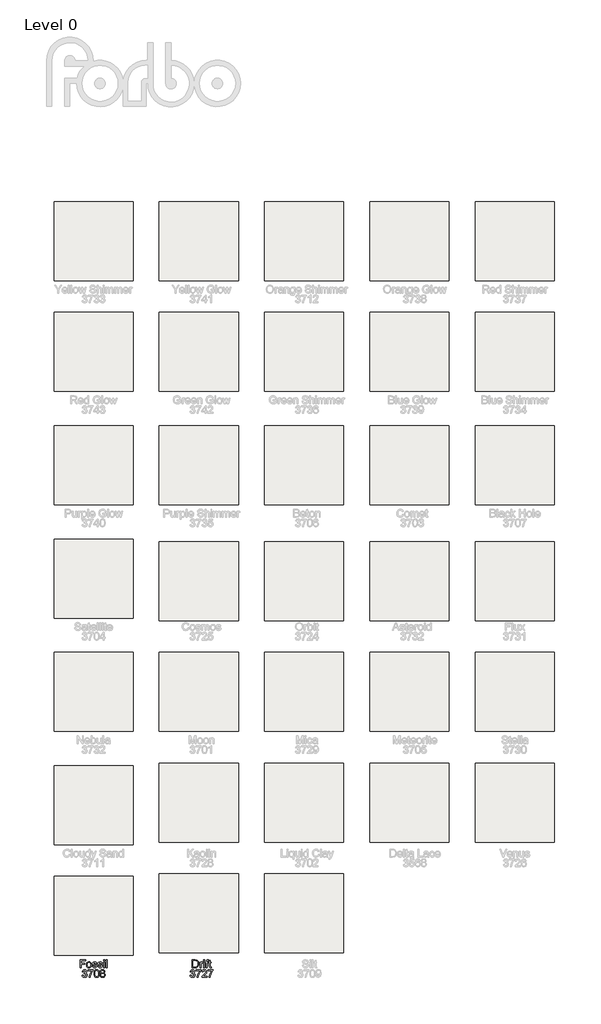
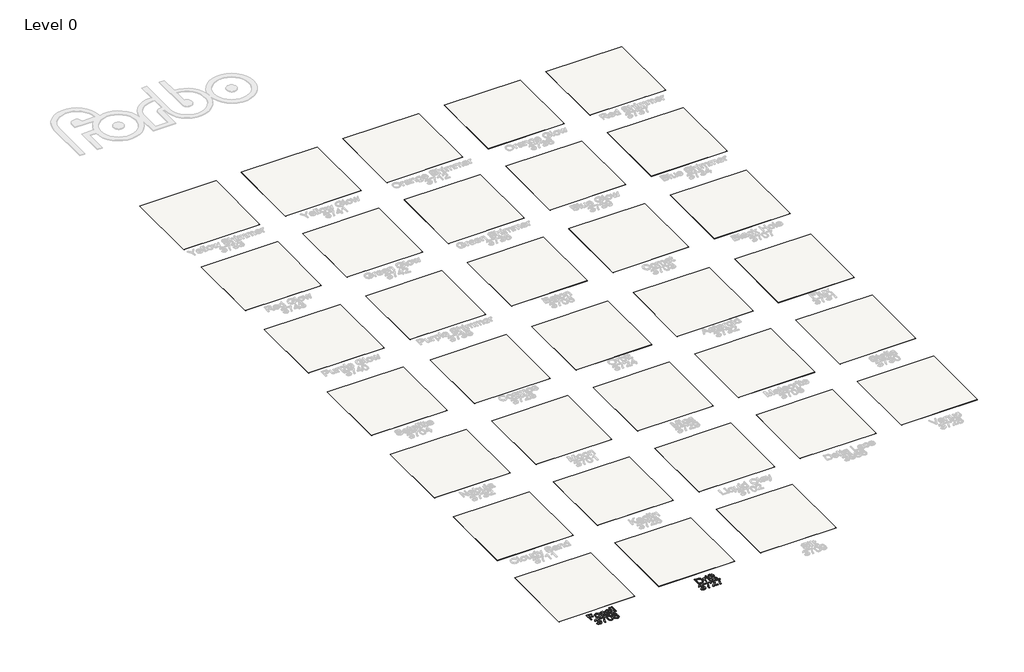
# One storey, part 1 of 14: 33 coverings, 2 proxies.
"""IFC4 building model written with IfcOpenShell, lengths in millimetres."""

from ifc_helpers import new_model, si_unit, frame, origin, origin_with_axes, place, context, project, spatial, polyline, outline, extrude, element, save

model = new_model("IFC4")

# Units and contexts
model_context = context("Model", 3, world=origin())
ifc_project = project(units=[si_unit("LENGTHUNIT", "METRE", prefix="MILLI")], contexts=[model_context])

# Site, building, storey
site = spatial("IfcSite", under=ifc_project)
building = spatial("IfcBuilding", under=site)
storey = spatial("IfcBuildingStorey", under=building, Name="Level 0", Elevation=0.0)

# Proxies
placement = place(None, origin())
element("IfcBuildingElementProxy", 1, Name="300mm Arial", ObjectType="300mm Arial", at=placement, inside=storey, context=model_context, shape_type="SweptSolid", body=[
    extrude(outline(polyline([(-8457.729111, -23537.1730179), (-8457.729111, -23241.7884025), (-8259.2675725, -23241.7884025), (-8259.2675725, -23278.7114794), (-8420.806034, -23278.7114794), (-8420.806034, -23366.4037871), (-8282.3444956, -23366.4037871), (-8282.3444956, -23403.326864), (-8420.806034, -23403.326864), (-8420.806034, -23537.1730179), (-8457.729111, -23537.1730179)])), origin_with_axes(), (0.0, 0.0, 1.0), 20.0),
    extrude(outline(polyline([(-8222.3444956, -23428.7114794), (-8220.3478009, -23400.6180299), (-8214.3577167, -23376.4097967), (-8204.3742432, -23356.0867799), (-8190.3973802, -23339.6489794), (-8176.3258658, -23329.1426693), (-8160.7940148, -23321.6381621), (-8143.8018273, -23317.1354578), (-8125.3493033, -23315.6345563), (-8104.9789607, -23317.4622306), (-8086.5602408, -23322.9452534), (-8070.0931434, -23332.0836248), (-8055.5776687, -23344.8773448), (-8043.7304631, -23360.893721), (-8035.2681735, -23379.7000611), (-8030.1907997, -23401.2963652), (-8028.4983417, -23425.6826332), (-8031.4911302, -23462.9843159), (-8040.4694956, -23491.3797486), (-8055.1720196, -23512.6447727), (-8075.337284, -23528.5552294), (-8099.2886062, -23538.4801092), (-8125.3493033, -23541.7884025), (-8146.0171218, -23539.967489), (-8164.6071158, -23534.5047486), (-8181.1192852, -23525.4001813), (-8195.5536302, -23512.6537871), (-8207.2746338, -23496.4819121), (-8215.6467792, -23477.1009025), (-8220.6700665, -23454.5107582), (-8222.3444956, -23428.7114794)]), holes=[polyline([(-8185.4214187, -23428.639364), (-8181.1485821, -23462.0558304), (-8168.3300725, -23485.8629217), (-8149.0392071, -23500.1147246), (-8125.3493033, -23504.8653255), (-8101.7675725, -23500.0876813), (-8082.5127648, -23485.7547486), (-8069.6942552, -23461.6321525), (-8065.4214187, -23427.4855179), (-8069.7212985, -23395.0426092), (-8082.6209379, -23371.5600371), (-8101.9027889, -23357.3082342), (-8125.3493033, -23352.5576332), (-8149.0392071, -23357.2902054), (-8168.3300725, -23371.4879217), (-8181.1485821, -23395.2409265), (-8185.4214187, -23428.639364)])]), origin_with_axes(), (0.0, 0.0, 1.0), 20.0),
    extrude(outline(polyline([(-8000.806034, -23472.5576332), (-7963.8829571, -23467.9422486), (-7958.0596398, -23483.7355179), (-7946.791611, -23495.3460948), (-7930.0067552, -23502.4855179), (-7907.6329571, -23504.8653255), (-7885.5295917, -23502.6838352), (-7869.9887264, -23496.139364), (-7860.7940148, -23486.6561909), (-7857.729111, -23475.6585948), (-7860.8120437, -23466.2475371), (-7870.0608417, -23459.0720563), (-7908.0656494, -23448.5432102), (-7963.666611, -23430.4783063), (-7977.7381254, -23421.4007823), (-7987.9334379, -23409.3845563), (-7994.1263465, -23395.1958544), (-7996.1906494, -23379.6009025), (-7994.5319956, -23365.295013), (-7989.556034, -23352.0888832), (-7981.713486, -23340.5053496), (-7971.4550725, -23331.0672486), (-7947.9815148, -23320.1417679), (-7916.2146879, -23315.6345563), (-7892.182236, -23317.4464554), (-7871.2868033, -23322.8821525), (-7854.4839187, -23331.4097967), (-7842.729111, -23342.4975371), (-7834.9406494, -23356.9656861), (-7830.0368033, -23375.6345563), (-7866.9598802, -23380.2499409), (-7871.6203369, -23368.6303496), (-7880.8420917, -23359.8773448), (-7894.7152889, -23354.3875611), (-7913.3300725, -23352.5576332), (-7934.5319956, -23354.3064313), (-7948.666611, -23359.5528255), (-7956.6173321, -23367.1249409), (-7959.2675725, -23375.8509025), (-7954.868534, -23386.5960948), (-7941.0944956, -23394.7451332), (-7909.291611, -23402.6057102), (-7855.0968994, -23419.9855179), (-7840.7819956, -23428.2968159), (-7829.9286302, -23439.6730179), (-7823.0866831, -23454.1501813), (-7820.806034, -23471.764364), (-7823.4833177, -23489.9734986), (-7831.5151687, -23507.1009025), (-7844.5950965, -23521.8034265), (-7862.416611, -23532.7379217), (-7883.9430533, -23539.5257823), (-7908.1377648, -23541.7884025), (-7945.3673321, -23537.4254217), (-7972.5368033, -23524.3364794), (-7990.6738225, -23502.6658063), (-8000.806034, -23472.5576332)])), origin_with_axes(), (0.0, 0.0, 1.0), 20.0),
    extrude(outline(polyline([(-7793.1137264, -23472.5576332), (-7756.1906494, -23467.9422486), (-7750.3673321, -23483.7355179), (-7739.0993033, -23495.3460948), (-7722.3144475, -23502.4855179), (-7699.9406494, -23504.8653255), (-7677.837284, -23502.6838352), (-7662.2964187, -23496.139364), (-7653.1017071, -23486.6561909), (-7650.0368033, -23475.6585948), (-7653.119736, -23466.2475371), (-7662.368534, -23459.0720563), (-7700.3733417, -23448.5432102), (-7755.9743033, -23430.4783063), (-7770.0458177, -23421.4007823), (-7780.2411302, -23409.3845563), (-7786.4340389, -23395.1958544), (-7788.4983417, -23379.6009025), (-7786.8396879, -23365.295013), (-7781.8637264, -23352.0888832), (-7774.0211783, -23340.5053496), (-7763.7627648, -23331.0672486), (-7740.2892071, -23320.1417679), (-7708.5223802, -23315.6345563), (-7684.4899283, -23317.4464554), (-7663.5944956, -23322.8821525), (-7646.791611, -23331.4097967), (-7635.0368033, -23342.4975371), (-7627.2483417, -23356.9656861), (-7622.3444956, -23375.6345563), (-7659.2675725, -23380.2499409), (-7663.9280292, -23368.6303496), (-7673.149784, -23359.8773448), (-7687.0229812, -23354.3875611), (-7705.6377648, -23352.5576332), (-7726.8396879, -23354.3064313), (-7740.9743033, -23359.5528255), (-7748.9250244, -23367.1249409), (-7751.5752648, -23375.8509025), (-7747.1762264, -23386.5960948), (-7733.4021879, -23394.7451332), (-7701.5993033, -23402.6057102), (-7647.4045917, -23419.9855179), (-7633.0896879, -23428.2968159), (-7622.2363225, -23439.6730179), (-7615.3943754, -23454.1501813), (-7613.1137264, -23471.764364), (-7615.79101, -23489.9734986), (-7623.822861, -23507.1009025), (-7636.9027889, -23521.8034265), (-7654.7243033, -23532.7379217), (-7676.2507456, -23539.5257823), (-7700.4454571, -23541.7884025), (-7737.6750244, -23537.4254217), (-7764.8444956, -23524.3364794), (-7782.9815148, -23502.6658063), (-7793.1137264, -23472.5576332)])), origin_with_axes(), (0.0, 0.0, 1.0), 20.0),
    extrude(outline(polyline([(-7571.5752648, -23278.7114794), (-7571.5752648, -23241.7884025), (-7534.6521879, -23241.7884025), (-7534.6521879, -23278.7114794), (-7571.5752648, -23278.7114794)])), origin_with_axes(), (0.0, 0.0, 1.0), 20.0),
    extrude(outline(polyline([(-7571.5752648, -23537.1730179), (-7571.5752648, -23320.2499409), (-7534.6521879, -23320.2499409), (-7534.6521879, -23537.1730179), (-7571.5752648, -23537.1730179)])), origin_with_axes(), (0.0, 0.0, 1.0), 20.0),
    extrude(outline(polyline([(-7479.2675725, -23537.1730179), (-7479.2675725, -23241.7884025), (-7442.3444956, -23241.7884025), (-7442.3444956, -23537.1730179), (-7479.2675725, -23537.1730179)])), origin_with_axes(), (0.0, 0.0, 1.0), 20.0),
    extrude(outline(polyline([(-8386.1906494, -23823.326864), (-8349.2675725, -23818.7114794), (-8341.0013465, -23841.9146044), (-8328.8949764, -23857.5816717), (-8312.35351, -23866.5059505), (-8290.7819956, -23869.4807102), (-8265.4694956, -23865.3881621), (-8245.9262264, -23853.1105179), (-8233.432236, -23834.7932102), (-8229.2675725, -23812.5816717), (-8233.3961783, -23791.4969361), (-8245.7819956, -23774.3965755), (-8264.5319956, -23763.0654457), (-8287.7531494, -23759.2884025), (-8313.6425725, -23763.326864), (-8309.5319956, -23726.4037871), (-8303.618534, -23726.8364794), (-8281.4971398, -23724.186239), (-8261.7194956, -23716.2355179), (-8247.7651687, -23702.7859986), (-8243.1137264, -23683.639364), (-8246.4851206, -23667.6928496), (-8256.5993033, -23654.7571525), (-8272.0319956, -23646.1844361), (-8291.3589187, -23643.326864), (-8310.7218994, -23646.2114794), (-8326.5512264, -23654.8653255), (-8338.1077167, -23669.2884025), (-8344.6521879, -23689.4807102), (-8381.5752648, -23684.8653255), (-8370.7038706, -23651.7102775), (-8351.3589187, -23626.9566717), (-8324.8925725, -23611.5420082), (-8292.6569956, -23606.4037871), (-8269.4448562, -23608.93684), (-8248.1257456, -23616.5359986), (-8230.150986, -23628.5251813), (-8216.9718994, -23644.2283063), (-8208.8859619, -23662.3202534), (-8206.1906494, -23681.4759025), (-8208.7507456, -23699.3244602), (-8216.431034, -23715.514364), (-8229.1233417, -23729.3064313), (-8246.7194956, -23739.9614794), (-8223.6065148, -23749.3004217), (-8206.479111, -23765.201864), (-8195.8781494, -23786.8004217), (-8192.3444956, -23813.2307102), (-8194.1113225, -23831.9626813), (-8199.4118033, -23849.2162871), (-8208.2459379, -23864.9915275), (-8220.6137264, -23879.2884025), (-8235.6813345, -23891.1513832), (-8252.6149283, -23899.6249409), (-8271.4145076, -23904.7090755), (-8292.0800725, -23906.4037871), (-8327.7771879, -23900.6165275), (-8343.1377648, -23893.3824529), (-8356.8396879, -23883.2547486), (-8368.3285701, -23870.8283664), (-8377.0500244, -23856.6982582), (-8386.1906494, -23823.326864)])), origin_with_axes(), (0.0, 0.0, 1.0), 20.0),
    extrude(outline(polyline([(-8160.0368033, -23647.9422486), (-8160.0368033, -23611.0191717), (-7966.1906494, -23611.0191717), (-7966.1906494, -23640.8749409), (-7993.8198562, -23675.841888), (-8021.1786302, -23720.3100371), (-8045.3102408, -23770.2228977), (-8063.2579571, -23821.5239794), (-8072.056034, -23859.9073929), (-8076.9598802, -23901.7884025), (-8113.8829571, -23901.7884025), (-8109.8895677, -23863.7295082), (-8099.2074764, -23818.4951332), (-8082.1251446, -23770.5474169), (-8058.931034, -23724.3484986), (-8031.8517071, -23682.5846765), (-8003.1137264, -23647.9422486), (-8160.0368033, -23647.9422486)])), origin_with_axes(), (0.0, 0.0, 1.0), 20.0),
    extrude(outline(polyline([(-7933.8829571, -23756.4759025), (-7931.1696158, -23709.1952534), (-7923.0295917, -23671.4879217), (-7909.5440148, -23642.7769842), (-7890.7940148, -23622.4855179), (-7866.6443754, -23610.4242198), (-7836.9598802, -23606.4037871), (-7814.2074764, -23608.7835948), (-7793.8348802, -23615.9230179), (-7776.7976206, -23627.5426092), (-7764.0512264, -23643.3629217), (-7754.4238225, -23663.248739), (-7746.743534, -23687.0648448), (-7741.713486, -23717.3082342), (-7740.0368033, -23756.4759025), (-7742.7231014, -23803.4861188), (-7750.7819956, -23841.1033063), (-7764.1864427, -23869.8412871), (-7782.9093994, -23890.2138832), (-7807.1131254, -23902.3563111), (-7836.9598802, -23906.4037871), (-7857.2964187, -23904.6459746), (-7875.3252648, -23899.3725371), (-7891.0464187, -23890.5834746), (-7904.4598802, -23878.2787871), (-7917.3324764, -23856.0356981), (-7926.5271879, -23828.3208544), (-7932.0440148, -23795.1342558), (-7933.8829571, -23756.4759025)]), holes=[polyline([(-7896.9598802, -23756.4037871), (-7892.6329571, -23814.483715), (-7887.2243033, -23834.3492498), (-7879.6521879, -23848.0984986), (-7860.3252648, -23864.1351573), (-7836.9598802, -23869.4807102), (-7813.5944956, -23864.1171284), (-7794.2675725, -23848.0263832), (-7786.6954571, -23834.2545984), (-7781.2868033, -23814.3935707), (-7776.9598802, -23756.4037871), (-7781.1425725, -23699.6309505), (-7786.3709379, -23679.8307703), (-7793.6906494, -23665.7547486), (-7812.9815148, -23648.9338352), (-7837.3925725, -23643.326864), (-7860.5055533, -23648.2667679), (-7879.0752648, -23663.0864794), (-7886.899784, -23678.4109986), (-7892.4887264, -23699.0720563), (-7896.9598802, -23756.4037871)])]), origin_with_axes(), (0.0, 0.0, 1.0), 20.0),
    extrude(outline(polyline([(-7653.931034, -23739.0960948), (-7673.6996639, -23729.3605179), (-7687.572861, -23716.1634025), (-7695.7669715, -23699.7751813), (-7698.4983417, -23680.4662871), (-7692.5488225, -23651.6021044), (-7674.7002648, -23627.7499409), (-7661.814147, -23618.4109986), (-7646.9538706, -23611.7403255), (-7611.3108417, -23606.4037871), (-7575.4514667, -23611.8665275), (-7560.4289307, -23618.6949529), (-7547.3444956, -23628.2547486), (-7529.1714187, -23652.4855179), (-7524.6281494, -23666.3857582), (-7523.1137264, -23681.4759025), (-7525.8090389, -23700.1628015), (-7533.8949764, -23716.2715755), (-7547.4616831, -23729.3875611), (-7566.5993033, -23739.0960948), (-7543.8739427, -23750.8058304), (-7527.3324764, -23768.0504217), (-7517.2453369, -23790.0005419), (-7513.8829571, -23815.826864), (-7515.5506254, -23834.2433304), (-7520.5536302, -23851.1273448), (-7528.8919715, -23866.4789073), (-7540.5656494, -23880.2980179), (-7554.9616831, -23891.7192919), (-7571.4670917, -23899.8773448), (-7590.0818754, -23904.7721765), (-7610.806034, -23906.4037871), (-7631.5301927, -23904.7654157), (-7650.1449764, -23899.8503015), (-7666.650385, -23891.6584445), (-7681.0464187, -23880.1898448), (-7692.7200965, -23866.2738292), (-7701.0584379, -23850.7397246), (-7706.0614427, -23833.5875311), (-7707.729111, -23814.8172486), (-7704.2315148, -23787.9903255), (-7693.7387264, -23765.9230179), (-7676.791611, -23749.3725371), (-7653.931034, -23739.0960948)]), holes=[polyline([(-7670.806034, -23813.5191717), (-7664.6401687, -23841.3196525), (-7656.10351, -23853.2457342), (-7642.8252648, -23862.1249409), (-7626.9238225, -23867.6417679), (-7610.5175725, -23869.4807102), (-7585.385361, -23865.6135227), (-7566.5271879, -23854.0119602), (-7554.7363225, -23836.4428496), (-7550.806034, -23814.6730179), (-7554.8625244, -23792.5335948), (-7567.0319956, -23774.576864), (-7586.322861, -23762.6778255), (-7611.743534, -23758.7114794), (-7636.5241831, -23762.623739), (-7655.1930533, -23774.3605179), (-7666.9027889, -23791.9747005), (-7670.806034, -23813.5191717)]), polyline([(-7661.5752648, -23681.5480179), (-7658.3030292, -23697.6658063), (-7648.4863225, -23710.5384025), (-7632.4136062, -23718.9759025), (-7610.3733417, -23721.7884025), (-7588.8468994, -23718.9939313), (-7573.0175725, -23710.6105179), (-7563.2819956, -23698.170614), (-7560.0368033, -23683.2066717), (-7563.3901687, -23667.6748207), (-7573.4502648, -23654.8292679), (-7589.4959379, -23646.202465), (-7610.806034, -23643.326864), (-7632.2513465, -23646.139364), (-7648.2699764, -23654.576864), (-7658.2489427, -23666.9446525), (-7661.5752648, -23681.5480179)])]), origin_with_axes(), (0.0, 0.0, 1.0), 20.0),
])
element("IfcBuildingElementProxy", 2, Name="300mm Arial", ObjectType="300mm Arial", at=placement, inside=storey, context=model_context, shape_type="SweptSolid", body=[
    extrude(outline(polyline([(-4200.806034, -23537.1730179), (-4200.806034, -23241.7884025), (-4098.9069956, -23241.7884025), (-4046.1906494, -23246.0432102), (-4022.6449764, -23254.2463352), (-4002.7771879, -23267.1730179), (-3982.3505052, -23289.6730179), (-3967.8012264, -23317.6537871), (-3959.0932937, -23350.5744602), (-3956.1906494, -23387.8941717), (-3958.1557937, -23419.5978977), (-3964.0512264, -23447.4975371), (-3973.0295917, -23471.2505419), (-3984.243534, -23490.514364), (-3997.1521879, -23505.7216957), (-4011.2146879, -23517.3052294), (-4027.3595196, -23525.8959746), (-4046.5151687, -23532.1249409), (-4094.0031494, -23537.1730179), (-4200.806034, -23537.1730179)]), holes=[polyline([(-4163.8829571, -23500.2499409), (-4098.5464187, -23500.2499409), (-4071.5211783, -23498.9158063), (-4051.0223802, -23494.9134025), (-4035.5536302, -23488.4771044), (-4023.618534, -23479.8412871), (-4010.79101, -23463.858715), (-4001.1545917, -23443.170614), (-3995.1239427, -23417.68684), (-3993.1137264, -23387.3172486), (-3997.0530292, -23347.076864), (-4008.8709379, -23317.3653255), (-4026.3318754, -23296.9566717), (-4047.2002648, -23284.6249409), (-4068.4382456, -23280.1898448), (-4099.556034, -23278.7114794), (-4163.8829571, -23278.7114794), (-4163.8829571, -23500.2499409)])]), origin_with_axes(), (0.0, 0.0, 1.0), 20.0),
    extrude(outline(polyline([(-3910.0368033, -23537.1730179), (-3910.0368033, -23320.2499409), (-3877.729111, -23320.2499409), (-3877.729111, -23352.3412871), (-3865.7940148, -23333.7355179), (-3854.7964187, -23322.7739794), (-3843.7627648, -23317.4194121), (-3831.7194956, -23315.6345563), (-3813.3300725, -23318.483114), (-3794.6521879, -23327.0287871), (-3806.9839187, -23360.1297486), (-3819.9646879, -23354.4506621), (-3832.9454571, -23352.5576332), (-3843.9700965, -23354.3785467), (-3853.822861, -23359.8412871), (-3861.7825965, -23368.5311909), (-3867.1281494, -23380.0335948), (-3871.6173321, -23400.6585948), (-3873.1137264, -23423.1585948), (-3873.1137264, -23537.1730179), (-3910.0368033, -23537.1730179)])), origin_with_axes(), (0.0, 0.0, 1.0), 20.0),
    extrude(outline(polyline([(-3771.5752648, -23537.1730179), (-3771.5752648, -23320.2499409), (-3734.6521879, -23320.2499409), (-3734.6521879, -23537.1730179), (-3771.5752648, -23537.1730179)])), origin_with_axes(), (0.0, 0.0, 1.0), 20.0),
    extrude(outline(polyline([(-3771.5752648, -23278.7114794), (-3771.5752648, -23241.7884025), (-3734.6521879, -23241.7884025), (-3734.6521879, -23278.7114794), (-3771.5752648, -23278.7114794)])), origin_with_axes(), (0.0, 0.0, 1.0), 20.0),
    extrude(outline(polyline([(-3670.0368033, -23537.1730179), (-3670.0368033, -23357.1730179), (-3702.3444956, -23357.1730179), (-3702.3444956, -23320.2499409), (-3670.0368033, -23320.2499409), (-3670.0368033, -23298.3989794), (-3666.1425725, -23267.6057102), (-3658.7146879, -23255.3280659), (-3647.2483417, -23245.6105179), (-3631.2026687, -23239.2823929), (-3610.0368033, -23237.1730179), (-3576.3589187, -23241.2114794), (-3581.7675725, -23275.826864), (-3603.041611, -23274.0960948), (-3617.0770677, -23275.6285467), (-3626.2988225, -23280.2259025), (-3631.4100004, -23289.0059505), (-3633.1137264, -23303.0864794), (-3633.1137264, -23320.2499409), (-3591.5752648, -23320.2499409), (-3591.5752648, -23357.1730179), (-3633.1137264, -23357.1730179), (-3633.1137264, -23537.1730179), (-3670.0368033, -23537.1730179)])), origin_with_axes(), (0.0, 0.0, 1.0), 20.0),
    extrude(outline(polyline([(-3480.806034, -23506.3797486), (-3476.1906494, -23538.2547486), (-3503.8108417, -23541.7884025), (-3521.5331975, -23540.2559505), (-3534.7483417, -23535.6585948), (-3544.087284, -23528.5732582), (-3550.181034, -23519.576864), (-3553.5343994, -23504.1261429), (-3554.6521879, -23477.6778255), (-3554.6521879, -23357.1730179), (-3582.3444956, -23357.1730179), (-3582.3444956, -23320.2499409), (-3554.6521879, -23320.2499409), (-3554.6521879, -23267.5335948), (-3517.729111, -23245.826864), (-3517.729111, -23320.2499409), (-3480.806034, -23320.2499409), (-3480.806034, -23357.1730179), (-3517.729111, -23357.1730179), (-3517.729111, -23476.5960948), (-3515.7819956, -23495.6345563), (-3509.4718994, -23502.3773448), (-3496.8877648, -23504.8653255), (-3480.806034, -23506.3797486)])), origin_with_axes(), (0.0, 0.0, 1.0), 20.0),
    extrude(outline(polyline([(-4286.1906494, -23823.326864), (-4249.2675725, -23818.7114794), (-4241.0013465, -23841.9146044), (-4228.8949764, -23857.5816717), (-4212.35351, -23866.5059505), (-4190.7819956, -23869.4807102), (-4165.4694956, -23865.3881621), (-4145.9262264, -23853.1105179), (-4133.432236, -23834.7932102), (-4129.2675725, -23812.5816717), (-4133.3961783, -23791.4969361), (-4145.7819956, -23774.3965755), (-4164.5319956, -23763.0654457), (-4187.7531494, -23759.2884025), (-4213.6425725, -23763.326864), (-4209.5319956, -23726.4037871), (-4203.618534, -23726.8364794), (-4181.4971398, -23724.186239), (-4161.7194956, -23716.2355179), (-4147.7651687, -23702.7859986), (-4143.1137264, -23683.639364), (-4146.4851206, -23667.6928496), (-4156.5993033, -23654.7571525), (-4172.0319956, -23646.1844361), (-4191.3589187, -23643.326864), (-4210.7218994, -23646.2114794), (-4226.5512264, -23654.8653255), (-4238.1077167, -23669.2884025), (-4244.6521879, -23689.4807102), (-4281.5752648, -23684.8653255), (-4270.7038706, -23651.7102775), (-4251.3589187, -23626.9566717), (-4224.8925725, -23611.5420082), (-4192.6569956, -23606.4037871), (-4169.4448562, -23608.93684), (-4148.1257456, -23616.5359986), (-4130.150986, -23628.5251813), (-4116.9718994, -23644.2283063), (-4108.8859619, -23662.3202534), (-4106.1906494, -23681.4759025), (-4108.7507456, -23699.3244602), (-4116.431034, -23715.514364), (-4129.1233417, -23729.3064313), (-4146.7194956, -23739.9614794), (-4123.6065148, -23749.3004217), (-4106.479111, -23765.201864), (-4095.8781494, -23786.8004217), (-4092.3444956, -23813.2307102), (-4094.1113225, -23831.9626813), (-4099.4118033, -23849.2162871), (-4108.2459379, -23864.9915275), (-4120.6137264, -23879.2884025), (-4135.6813345, -23891.1513832), (-4152.6149283, -23899.6249409), (-4171.4145076, -23904.7090755), (-4192.0800725, -23906.4037871), (-4227.7771879, -23900.6165275), (-4243.1377648, -23893.3824529), (-4256.8396879, -23883.2547486), (-4268.3285701, -23870.8283664), (-4277.0500244, -23856.6982582), (-4286.1906494, -23823.326864)])), origin_with_axes(), (0.0, 0.0, 1.0), 20.0),
    extrude(outline(polyline([(-4060.0368033, -23647.9422486), (-4060.0368033, -23611.0191717), (-3866.1906494, -23611.0191717), (-3866.1906494, -23640.8749409), (-3893.8198562, -23675.841888), (-3921.1786302, -23720.3100371), (-3945.3102408, -23770.2228977), (-3963.2579571, -23821.5239794), (-3972.056034, -23859.9073929), (-3976.9598802, -23901.7884025), (-4013.8829571, -23901.7884025), (-4009.8895677, -23863.7295082), (-3999.2074764, -23818.4951332), (-3982.1251446, -23770.5474169), (-3958.931034, -23724.3484986), (-3931.8517071, -23682.5846765), (-3903.1137264, -23647.9422486), (-4060.0368033, -23647.9422486)])), origin_with_axes(), (0.0, 0.0, 1.0), 20.0),
    extrude(outline(polyline([(-3644.6521879, -23864.8653255), (-3644.6521879, -23901.7884025), (-3838.4983417, -23901.7884025), (-3834.5319956, -23876.3316717), (-3825.4274283, -23856.43684), (-3812.104111, -23837.1369602), (-3792.8312744, -23816.935638), (-3765.8781494, -23794.3364794), (-3726.0343994, -23758.9458544), (-3702.1281494, -23732.8220563), (-3690.1750244, -23711.6201332), (-3686.1906494, -23690.9951332), (-3689.9496639, -23672.5065515), (-3701.2267071, -23657.1369602), (-3718.5614427, -23646.779388), (-3740.493534, -23643.326864), (-3763.525385, -23646.6982582), (-3781.4190148, -23656.8124409), (-3792.9664908, -23672.8761429), (-3796.9598802, -23694.0960948), (-3833.8829571, -23689.4807102), (-3824.931635, -23653.7655659), (-3816.5549824, -23639.5182703), (-3805.5776687, -23627.6778255), (-3792.2520977, -23618.3704337), (-3776.8306735, -23611.7222967), (-3739.7002648, -23606.4037871), (-3719.9113526, -23607.8821525), (-3702.2994235, -23612.3172486), (-3686.8644776, -23619.7090755), (-3673.6065148, -23630.0576332), (-3662.9582276, -23642.5966957), (-3655.3523081, -23656.5600371), (-3650.7887564, -23671.9476573), (-3649.2675725, -23688.7595563), (-3650.9081975, -23706.4188111), (-3655.8300725, -23723.7715755), (-3664.5650485, -23741.4218159), (-3677.6449764, -23759.9734986), (-3698.4953369, -23782.1219361), (-3730.541611, -23810.5624409), (-3773.0175725, -23846.0792679), (-3789.6762264, -23864.8653255), (-3644.6521879, -23864.8653255)])), origin_with_axes(), (0.0, 0.0, 1.0), 20.0),
    extrude(outline(polyline([(-3607.729111, -23647.9422486), (-3607.729111, -23611.0191717), (-3413.8829571, -23611.0191717), (-3413.8829571, -23640.8749409), (-3441.5121639, -23675.841888), (-3468.8709379, -23720.3100371), (-3493.0025485, -23770.2228977), (-3510.9502648, -23821.5239794), (-3519.7483417, -23859.9073929), (-3524.6521879, -23901.7884025), (-3561.5752648, -23901.7884025), (-3557.5818754, -23863.7295082), (-3546.899784, -23818.4951332), (-3529.8174523, -23770.5474169), (-3506.6233417, -23724.3484986), (-3479.5440148, -23682.5846765), (-3450.806034, -23647.9422486), (-3607.729111, -23647.9422486)])), origin_with_axes(), (0.0, 0.0, 1.0), 20.0),
])

# Coverings
element("IfcCovering", 3, ObjectType="Floor_LinoleumFlooring_Forbo_MarmoleumConcrete_YellowShimmer_3733", at=placement, inside=storey, context=model_context, shape_type="SweptSolid", body=[
    extrude(outline(polyline([(-6452.3444956, 5530.5192898), (-6452.3444956, 2530.5192898), (-9452.3444956, 2530.5192898), (-9452.3444956, 5530.5192898), (-6452.3444956, 5530.5192898)])), frame((0.0, 0.0, -2.5), z_axis=(0.0, 0.0, 1.0), x_axis=(1.0, 0.0, 0.0)), (0.0, 0.0, 1.0), 2.5),
])
element("IfcCovering", 4, ObjectType="Floor_LinoleumFlooring_Forbo_MarmoleumConcrete_YellowGlow_3741", at=placement, inside=storey, context=model_context, shape_type="SweptSolid", body=[
    extrude(outline(polyline([(-2452.3444956, 5530.5192898), (-2452.3444956, 2530.5192898), (-5452.3444956, 2530.5192898), (-5452.3444956, 5530.5192898), (-2452.3444956, 5530.5192898)])), frame((0.0, 0.0, -2.5), z_axis=(0.0, 0.0, 1.0), x_axis=(1.0, 0.0, 0.0)), (0.0, 0.0, 1.0), 2.5),
])
element("IfcCovering", 5, ObjectType="Floor_LinoleumFlooring_Forbo_MarmoleumConcrete_Orange Shimmer_3712", at=placement, inside=storey, context=model_context, shape_type="SweptSolid", body=[
    extrude(outline(polyline([(1547.6555044, 5530.5192898), (1547.6555044, 2530.5192898), (-1452.3444956, 2530.5192898), (-1452.3444956, 5530.5192898), (1547.6555044, 5530.5192898)])), frame((0.0, 0.0, -2.5), z_axis=(0.0, 0.0, 1.0), x_axis=(1.0, 0.0, 0.0)), (0.0, 0.0, 1.0), 2.5),
])
element("IfcCovering", 6, ObjectType="Floor_LinoleumFlooring_Forbo_MarmoleumConcrete_OrangeGlow_3738", at=placement, inside=storey, context=model_context, shape_type="SweptSolid", body=[
    extrude(outline(polyline([(5547.6555044, 5530.5192898), (5547.6555044, 2530.5192898), (2547.6555044, 2530.5192898), (2547.6555044, 5530.5192898), (5547.6555044, 5530.5192898)])), frame((0.0, 0.0, -2.5), z_axis=(0.0, 0.0, 1.0), x_axis=(1.0, 0.0, 0.0)), (0.0, 0.0, 1.0), 2.5),
])
element("IfcCovering", 7, ObjectType="Floor_LinoleumFlooring_Forbo_MarmoleumConcrete_RedShimmer_3737", at=placement, inside=storey, context=model_context, shape_type="SweptSolid", body=[
    extrude(outline(polyline([(9547.6555044, 5530.5192898), (9547.6555044, 2530.5192898), (6547.6555044, 2530.5192898), (6547.6555044, 5530.5192898), (9547.6555044, 5530.5192898)])), frame((0.0, 0.0, -2.5), z_axis=(0.0, 0.0, 1.0), x_axis=(1.0, 0.0, 0.0)), (0.0, 0.0, 1.0), 2.5),
])
element("IfcCovering", 8, ObjectType="Floor_LinoleumFlooring_Forbo_MarmoleumConcrete_RedGlow_3743", at=placement, inside=storey, context=model_context, shape_type="SweptSolid", body=[
    extrude(outline(polyline([(-6452.3444956, 1330.5192898), (-6452.3444956, -1669.4807102), (-9452.3444956, -1669.4807102), (-9452.3444956, 1330.5192898), (-6452.3444956, 1330.5192898)])), frame((0.0, 0.0, -2.5), z_axis=(0.0, 0.0, 1.0), x_axis=(1.0, 0.0, 0.0)), (0.0, 0.0, 1.0), 2.5),
])
element("IfcCovering", 9, ObjectType="Floor_LinoleumFlooring_Forbo_MarmoleumConcrete_PurpleGlow_3740", at=placement, inside=storey, context=model_context, shape_type="SweptSolid", body=[
    extrude(outline(polyline([(-6452.3444956, -2969.4807102), (-6452.3444956, -5969.4807102), (-9452.3444956, -5969.4807102), (-9452.3444956, -2969.4807102), (-6452.3444956, -2969.4807102)])), frame((0.0, 0.0, -2.5), z_axis=(0.0, 0.0, 1.0), x_axis=(1.0, 0.0, 0.0)), (0.0, 0.0, 1.0), 2.5),
])
element("IfcCovering", 10, ObjectType="Floor_LinoleumFlooring_Forbo_MarmoleumConcrete_Satellite_3704", at=placement, inside=storey, context=model_context, shape_type="SweptSolid", body=[
    extrude(outline(polyline([(-6452.3444956, -7269.4807102), (-6452.3444956, -10269.4807102), (-9452.3444956, -10269.4807102), (-9452.3444956, -7269.4807102), (-6452.3444956, -7269.4807102)])), frame((0.0, 0.0, -2.5), z_axis=(0.0, 0.0, 1.0), x_axis=(1.0, 0.0, 0.0)), (0.0, 0.0, 1.0), 2.5),
])
element("IfcCovering", 11, ObjectType="Floor_LinoleumFlooring_Forbo_MarmoleumConcrete_Nebula_3723", at=placement, inside=storey, context=model_context, shape_type="SweptSolid", body=[
    extrude(outline(polyline([(-6452.3444956, -11569.4807102), (-6452.3444956, -14569.4807102), (-9452.3444956, -14569.4807102), (-9452.3444956, -11569.4807102), (-6452.3444956, -11569.4807102)])), frame((0.0, 0.0, -2.5), z_axis=(0.0, 0.0, 1.0), x_axis=(1.0, 0.0, 0.0)), (0.0, 0.0, 1.0), 2.5),
])
element("IfcCovering", 12, ObjectType="Floor_LinoleumFlooring_Forbo_MarmoleumConcrete_CloudySand_3711", at=placement, inside=storey, context=model_context, shape_type="SweptSolid", body=[
    extrude(outline(polyline([(-6452.3444956, -15869.4807102), (-6452.3444956, -18869.4807102), (-9452.3444956, -18869.4807102), (-9452.3444956, -15869.4807102), (-6452.3444956, -15869.4807102)])), frame((0.0, 0.0, -2.5), z_axis=(0.0, 0.0, 1.0), x_axis=(1.0, 0.0, 0.0)), (0.0, 0.0, 1.0), 2.5),
])
element("IfcCovering", 13, ObjectType="Floor_LinoleumFlooring_Forbo_MarmoleumConcrete_Fossil_3708", at=placement, inside=storey, context=model_context, shape_type="SweptSolid", body=[
    extrude(outline(polyline([(-6452.3444956, -20069.4807102), (-6452.3444956, -23069.4807102), (-9452.3444956, -23069.4807102), (-9452.3444956, -20069.4807102), (-6452.3444956, -20069.4807102)])), frame((0.0, 0.0, -2.5), z_axis=(0.0, 0.0, 1.0), x_axis=(1.0, 0.0, 0.0)), (0.0, 0.0, 1.0), 2.5),
])
element("IfcCovering", 14, ObjectType="Floor_LinoleumFlooring_Forbo_MarmoleumConcrete_GreenGlow_3742", at=placement, inside=storey, context=model_context, shape_type="SweptSolid", body=[
    extrude(outline(polyline([(-2452.3444956, 1330.5192898), (-2452.3444956, -1669.4807102), (-5452.3444956, -1669.4807102), (-5452.3444956, 1330.5192898), (-2452.3444956, 1330.5192898)])), frame((0.0, 0.0, -2.5), z_axis=(0.0, 0.0, 1.0), x_axis=(1.0, 0.0, 0.0)), (0.0, 0.0, 1.0), 2.5),
])
element("IfcCovering", 15, ObjectType="Floor_LinoleumFlooring_Forbo_MarmoleumConcrete_GreenShimmer_3736", at=placement, inside=storey, context=model_context, shape_type="SweptSolid", body=[
    extrude(outline(polyline([(1547.6555044, 1330.5192898), (1547.6555044, -1669.4807102), (-1452.3444956, -1669.4807102), (-1452.3444956, 1330.5192898), (1547.6555044, 1330.5192898)])), frame((0.0, 0.0, -2.5), z_axis=(0.0, 0.0, 1.0), x_axis=(1.0, 0.0, 0.0)), (0.0, 0.0, 1.0), 2.5),
])
element("IfcCovering", 16, ObjectType="Floor_LinoleumFlooring_Forbo_MarmoleumConcrete_BlueGlow_3739", at=placement, inside=storey, context=model_context, shape_type="SweptSolid", body=[
    extrude(outline(polyline([(5547.6555044, 1330.5192898), (5547.6555044, -1669.4807102), (2547.6555044, -1669.4807102), (2547.6555044, 1330.5192898), (5547.6555044, 1330.5192898)])), frame((0.0, 0.0, -2.5), z_axis=(0.0, 0.0, 1.0), x_axis=(1.0, 0.0, 0.0)), (0.0, 0.0, 1.0), 2.5),
])
element("IfcCovering", 17, ObjectType="Floor_LinoleumFlooring_Forbo_MarmoleumConcrete_BlueShimmer_3734", at=placement, inside=storey, context=model_context, shape_type="SweptSolid", body=[
    extrude(outline(polyline([(9547.6555044, 1330.5192898), (9547.6555044, -1669.4807102), (6547.6555044, -1669.4807102), (6547.6555044, 1330.5192898), (9547.6555044, 1330.5192898)])), frame((0.0, 0.0, -2.5), z_axis=(0.0, 0.0, 1.0), x_axis=(1.0, 0.0, 0.0)), (0.0, 0.0, 1.0), 2.5),
])
element("IfcCovering", 18, ObjectType="Floor_LinoleumFlooring_Forbo_MarmoleumConcrete_PurpleShimmer_3735", at=placement, inside=storey, context=model_context, shape_type="SweptSolid", body=[
    extrude(outline(polyline([(-2452.3444956, -2969.4807102), (-2452.3444956, -5969.4807102), (-5452.3444956, -5969.4807102), (-5452.3444956, -2969.4807102), (-2452.3444956, -2969.4807102)])), frame((0.0, 0.0, -2.5), z_axis=(0.0, 0.0, 1.0), x_axis=(1.0, 0.0, 0.0)), (0.0, 0.0, 1.0), 2.5),
])
element("IfcCovering", 19, ObjectType="Floor_LinoleumFlooring_Forbo_MarmoleumConcrete_Beton_3706", at=placement, inside=storey, context=model_context, shape_type="SweptSolid", body=[
    extrude(outline(polyline([(1547.6555044, -2969.4807102), (1547.6555044, -5969.4807102), (-1452.3444956, -5969.4807102), (-1452.3444956, -2969.4807102), (1547.6555044, -2969.4807102)])), frame((0.0, 0.0, -2.5), z_axis=(0.0, 0.0, 1.0), x_axis=(1.0, 0.0, 0.0)), (0.0, 0.0, 1.0), 2.5),
])
element("IfcCovering", 20, ObjectType="Floor_LinoleumFlooring_Forbo_MarmoleumConcrete_Comet_3703", at=placement, inside=storey, context=model_context, shape_type="SweptSolid", body=[
    extrude(outline(polyline([(5547.6555044, -2969.4807102), (5547.6555044, -5969.4807102), (2547.6555044, -5969.4807102), (2547.6555044, -2969.4807102), (5547.6555044, -2969.4807102)])), frame((0.0, 0.0, -2.5), z_axis=(0.0, 0.0, 1.0), x_axis=(1.0, 0.0, 0.0)), (0.0, 0.0, 1.0), 2.5),
])
element("IfcCovering", 21, ObjectType="Floor_LinoleumFlooring_Forbo_MarmoleumConcrete_BlackHole_3707", at=placement, inside=storey, context=model_context, shape_type="SweptSolid", body=[
    extrude(outline(polyline([(9547.6555044, -2969.4807102), (9547.6555044, -5969.4807102), (6547.6555044, -5969.4807102), (6547.6555044, -2969.4807102), (9547.6555044, -2969.4807102)])), frame((0.0, 0.0, -2.5), z_axis=(0.0, 0.0, 1.0), x_axis=(1.0, 0.0, 0.0)), (0.0, 0.0, 1.0), 2.5),
])
element("IfcCovering", 22, ObjectType="Floor_LinoleumFlooring_Forbo_MarmoleumConcrete_Cosmos_3725", at=placement, inside=storey, context=model_context, shape_type="SweptSolid", body=[
    extrude(outline(polyline([(-2452.3444956, -7369.4807102), (-2452.3444956, -10369.4807102), (-5452.3444956, -10369.4807102), (-5452.3444956, -7369.4807102), (-2452.3444956, -7369.4807102)])), frame((0.0, 0.0, -2.5), z_axis=(0.0, 0.0, 1.0), x_axis=(1.0, 0.0, 0.0)), (0.0, 0.0, 1.0), 2.5),
])
element("IfcCovering", 23, ObjectType="Floor_LinoleumFlooring_Forbo_MarmoleumConcrete_Orbit_3724", at=placement, inside=storey, context=model_context, shape_type="SweptSolid", body=[
    extrude(outline(polyline([(1547.6555044, -7369.4807102), (1547.6555044, -10369.4807102), (-1452.3444956, -10369.4807102), (-1452.3444956, -7369.4807102), (1547.6555044, -7369.4807102)])), frame((0.0, 0.0, -2.5), z_axis=(0.0, 0.0, 1.0), x_axis=(1.0, 0.0, 0.0)), (0.0, 0.0, 1.0), 2.5),
])
element("IfcCovering", 24, ObjectType="Floor_LinoleumFlooring_Forbo_MarmoleumConcrete_Asteroid_3732", at=placement, inside=storey, context=model_context, shape_type="SweptSolid", body=[
    extrude(outline(polyline([(5547.6555044, -7369.4807102), (5547.6555044, -10369.4807102), (2547.6555044, -10369.4807102), (2547.6555044, -7369.4807102), (5547.6555044, -7369.4807102)])), frame((0.0, 0.0, -2.5), z_axis=(0.0, 0.0, 1.0), x_axis=(1.0, 0.0, 0.0)), (0.0, 0.0, 1.0), 2.5),
])
element("IfcCovering", 25, ObjectType="Floor_LinoleumFlooring_Forbo_MarmoleumConcrete_Flux_3731", at=placement, inside=storey, context=model_context, shape_type="SweptSolid", body=[
    extrude(outline(polyline([(9547.6555044, -7369.4807102), (9547.6555044, -10369.4807102), (6547.6555044, -10369.4807102), (6547.6555044, -7369.4807102), (9547.6555044, -7369.4807102)])), frame((0.0, 0.0, -2.5), z_axis=(0.0, 0.0, 1.0), x_axis=(1.0, 0.0, 0.0)), (0.0, 0.0, 1.0), 2.5),
])
element("IfcCovering", 26, ObjectType="Floor_LinoleumFlooring_Forbo_MarmoleumConcrete_Moon_3701", at=placement, inside=storey, context=model_context, shape_type="SweptSolid", body=[
    extrude(outline(polyline([(-2452.3444956, -11569.4807102), (-2452.3444956, -14569.4807102), (-5452.3444956, -14569.4807102), (-5452.3444956, -11569.4807102), (-2452.3444956, -11569.4807102)])), frame((0.0, 0.0, -2.5), z_axis=(0.0, 0.0, 1.0), x_axis=(1.0, 0.0, 0.0)), (0.0, 0.0, 1.0), 2.5),
])
element("IfcCovering", 27, ObjectType="Floor_LinoleumFlooring_Forbo_MarmoleumConcrete_Mica_3729", at=placement, inside=storey, context=model_context, shape_type="SweptSolid", body=[
    extrude(outline(polyline([(1547.6555044, -11569.4807102), (1547.6555044, -14569.4807102), (-1452.3444956, -14569.4807102), (-1452.3444956, -11569.4807102), (1547.6555044, -11569.4807102)])), frame((0.0, 0.0, -2.5), z_axis=(0.0, 0.0, 1.0), x_axis=(1.0, 0.0, 0.0)), (0.0, 0.0, 1.0), 2.5),
])
element("IfcCovering", 28, ObjectType="Floor_LinoleumFlooring_Forbo_MarmoleumConcrete_Meteorite_3705", at=placement, inside=storey, context=model_context, shape_type="SweptSolid", body=[
    extrude(outline(polyline([(5547.6555044, -11569.4807102), (5547.6555044, -14569.4807102), (2547.6555044, -14569.4807102), (2547.6555044, -11569.4807102), (5547.6555044, -11569.4807102)])), frame((0.0, 0.0, -2.5), z_axis=(0.0, 0.0, 1.0), x_axis=(1.0, 0.0, 0.0)), (0.0, 0.0, 1.0), 2.5),
])
element("IfcCovering", 29, ObjectType="Floor_LinoleumFlooring_Forbo_MarmoleumConcrete_Stella_3730", at=placement, inside=storey, context=model_context, shape_type="SweptSolid", body=[
    extrude(outline(polyline([(9547.6555044, -11569.4807102), (9547.6555044, -14569.4807102), (6547.6555044, -14569.4807102), (6547.6555044, -11569.4807102), (9547.6555044, -11569.4807102)])), frame((0.0, 0.0, -2.5), z_axis=(0.0, 0.0, 1.0), x_axis=(1.0, 0.0, 0.0)), (0.0, 0.0, 1.0), 2.5),
])
element("IfcCovering", 30, ObjectType="Floor_LinoleumFlooring_Forbo_MarmoleumConcrete_Kaolin_3728", at=placement, inside=storey, context=model_context, shape_type="SweptSolid", body=[
    extrude(outline(polyline([(-2452.3444956, -15769.4807102), (-2452.3444956, -18769.4807102), (-5452.3444956, -18769.4807102), (-5452.3444956, -15769.4807102), (-2452.3444956, -15769.4807102)])), frame((0.0, 0.0, -2.5), z_axis=(0.0, 0.0, 1.0), x_axis=(1.0, 0.0, 0.0)), (0.0, 0.0, 1.0), 2.5),
])
element("IfcCovering", 31, ObjectType="Floor_LinoleumFlooring_Forbo_MarmoleumConcrete_LiquidClay_3702", at=placement, inside=storey, context=model_context, shape_type="SweptSolid", body=[
    extrude(outline(polyline([(1547.6555044, -15769.4807102), (1547.6555044, -18769.4807102), (-1452.3444956, -18769.4807102), (-1452.3444956, -15769.4807102), (1547.6555044, -15769.4807102)])), frame((0.0, 0.0, -2.5), z_axis=(0.0, 0.0, 1.0), x_axis=(1.0, 0.0, 0.0)), (0.0, 0.0, 1.0), 2.5),
])
element("IfcCovering", 32, ObjectType="Floor_LinoleumFlooring_Forbo_MarmoleumConcrete_DeltaLace_3568", at=placement, inside=storey, context=model_context, shape_type="SweptSolid", body=[
    extrude(outline(polyline([(5547.6555044, -15769.4807102), (5547.6555044, -18769.4807102), (2547.6555044, -18769.4807102), (2547.6555044, -15769.4807102), (5547.6555044, -15769.4807102)])), frame((0.0, 0.0, -2.5), z_axis=(0.0, 0.0, 1.0), x_axis=(1.0, 0.0, 0.0)), (0.0, 0.0, 1.0), 2.5),
])
element("IfcCovering", 33, ObjectType="Floor_LinoleumFlooring_Forbo_MarmoleumConcrete_Venus_3726", at=placement, inside=storey, context=model_context, shape_type="SweptSolid", body=[
    extrude(outline(polyline([(9547.6555044, -15769.4807102), (9547.6555044, -18769.4807102), (6547.6555044, -18769.4807102), (6547.6555044, -15769.4807102), (9547.6555044, -15769.4807102)])), frame((0.0, 0.0, -2.5), z_axis=(0.0, 0.0, 1.0), x_axis=(1.0, 0.0, 0.0)), (0.0, 0.0, 1.0), 2.5),
])
element("IfcCovering", 34, ObjectType="Floor_LinoleumFlooring_Forbo_MarmoleumConcrete_Drift_3727", at=placement, inside=storey, context=model_context, shape_type="SweptSolid", body=[
    extrude(outline(polyline([(-2452.3444956, -19969.4807102), (-2452.3444956, -22969.4807102), (-5452.3444956, -22969.4807102), (-5452.3444956, -19969.4807102), (-2452.3444956, -19969.4807102)])), frame((0.0, 0.0, -2.5), z_axis=(0.0, 0.0, 1.0), x_axis=(1.0, 0.0, 0.0)), (0.0, 0.0, 1.0), 2.5),
])
element("IfcCovering", 35, ObjectType="Floor_LinoleumFlooring_Forbo_MarmoleumConcrete_Silt_3709", at=placement, inside=storey, context=model_context, shape_type="SweptSolid", body=[
    extrude(outline(polyline([(1547.6555044, -19969.4807102), (1547.6555044, -22969.4807102), (-1452.3444956, -22969.4807102), (-1452.3444956, -19969.4807102), (1547.6555044, -19969.4807102)])), frame((0.0, 0.0, -2.5), z_axis=(0.0, 0.0, 1.0), x_axis=(1.0, 0.0, 0.0)), (0.0, 0.0, 1.0), 2.5),
])

save(model, "model.ifc")
